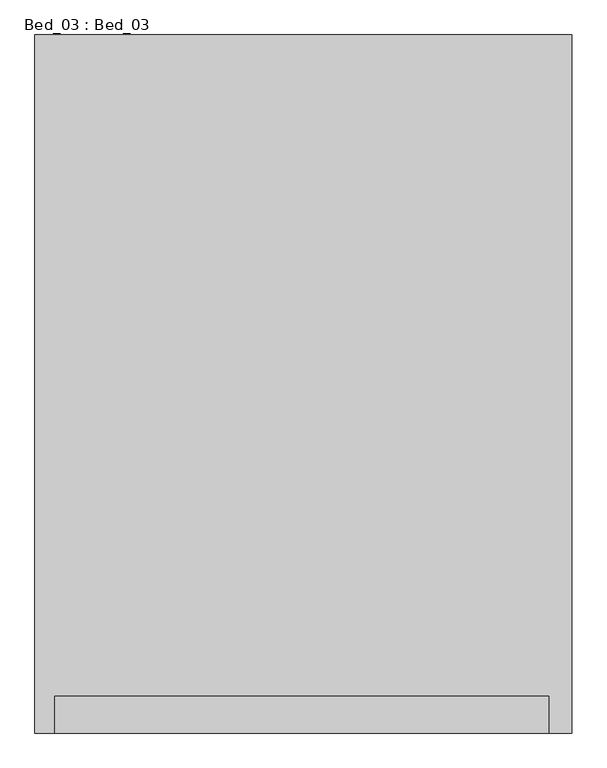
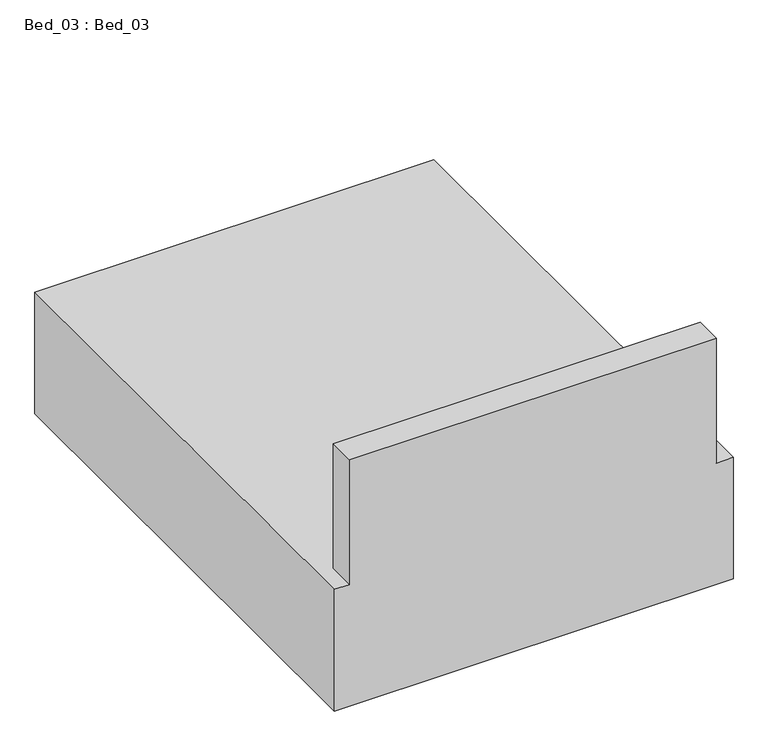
"""IFC4 building model written with IfcOpenShell, lengths in millimetres: furniture geometry, Bed_03 : Bed_03."""

from ifc_helpers import new_model, si_unit, origin, place, context, project, spatial, faceted_brep, source, transform, mapped, element, save


def bed_03_bed_03_54b4fd3d(model_context):
    return source(origin(), model_context, "Body", "Brep", [
        faceted_brep([(977.0323262, 1046.4797147, 525.346014), (-652.9676738, 1046.4797147, 525.346014), (-652.9676738, -1073.5202853, 525.346014), (-592.3701519, -1073.5202853, 525.346014), (-592.3701519, -961.0906652, 525.346014), (907.6298481, -961.0906652, 525.346014), (907.6298481, -1073.5202853, 525.346014), (977.0323262, -1073.5202853, 525.346014), (977.0323262, 1046.4797147, 0.0), (977.0323262, -1073.5202853, 0.0), (-652.9676738, -1073.5202853, 0.0), (-652.9676738, 1046.4797147, 0.0), (907.6298481, -1073.5202853, 1065.7705742), (-592.3701519, -1073.5202853, 1065.7705742), (907.6298481, -961.0906652, 1065.7705742), (-592.3701519, -961.0906652, 1065.7705742)], [[[0, 1, 2, 3, 4, 5, 6, 7]], [[8, 9, 10, 11]], [[1, 0, 8, 11]], [[2, 1, 11, 10]], [[10, 9, 7, 6, 12, 13, 3, 2]], [[0, 7, 9, 8]], [[14, 15, 13, 12]], [[15, 14, 5, 4]], [[13, 15, 4, 3]], [[14, 12, 6, 5]]]),
    ])


if __name__ == "__main__":
    model = new_model("IFC4")
    model_context = context("Model", 3, world=origin())
    ifc_project = project(units=[si_unit("LENGTHUNIT", "METRE", prefix="MILLI")], contexts=[model_context])
    site = spatial("IfcSite", under=ifc_project)
    building = spatial("IfcBuilding", under=site)
    placement = place(None, origin())
    bed_03_bed_03_shape = bed_03_bed_03_54b4fd3d(model_context)
    element("IfcFurniture", 1, ObjectType="Bed_03 : Bed_03", at=placement, inside=building, context=model_context, shape_type="MappedRepresentation", body=[
        mapped(bed_03_bed_03_shape, transform((0.0, 0.0, 0.0), x_axis=(1.0, 0.0, 0.0), y_axis=(0.0, 1.0, 0.0), z_axis=(0.0, 0.0, 1.0))),
    ])
    save(model, "model.ifc")
